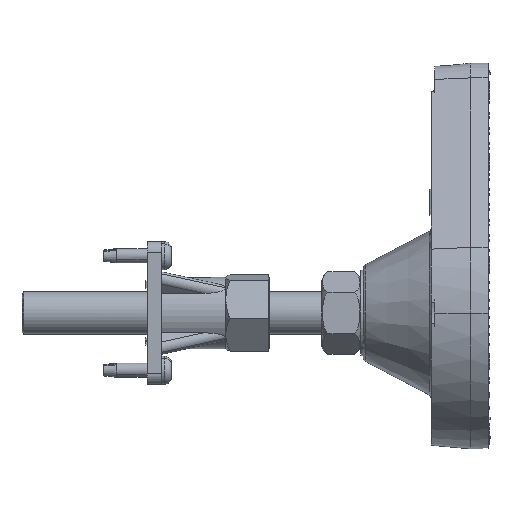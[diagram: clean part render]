
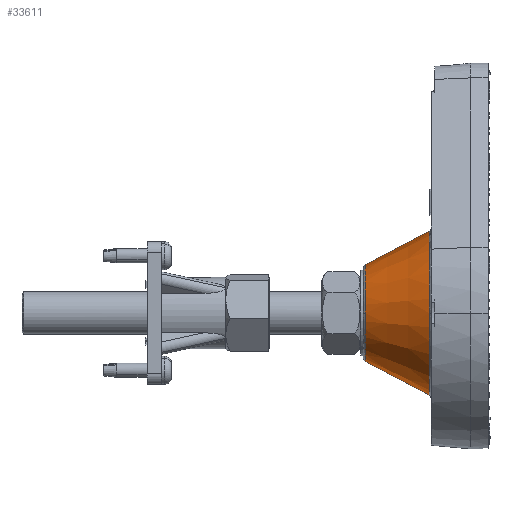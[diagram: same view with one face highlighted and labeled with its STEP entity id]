
A CAD part, left-side view. The second image highlights one B-rep face of the part: STEP entity #33611.
In plain terms, the highlighted conical face has half-angle 27.748 degrees and reference radius 36.472 mm.
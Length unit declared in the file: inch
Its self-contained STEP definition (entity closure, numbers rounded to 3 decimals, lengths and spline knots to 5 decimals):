
#62 = DIRECTION ( 'NONE',  ( -1., 0., 0. ) ) ;
#1290 = VECTOR ( 'NONE', #51004, 39.37008 ) ;
#1426 = ORIENTED_EDGE ( 'NONE', *, *, #1627, .T. ) ;
#1627 = EDGE_CURVE ( 'NONE', #32093, #11124, #52306, .T. ) ;
#1650 = DIRECTION ( 'NONE',  ( -1., 0., 0. ) ) ;
#2629 = VERTEX_POINT ( 'NONE', #35408 ) ;
#3723 = ORIENTED_EDGE ( 'NONE', *, *, #18787, .T. ) ;
#5285 = VERTEX_POINT ( 'NONE', #25611 ) ;
#6985 = CARTESIAN_POINT ( 'NONE',  ( 0., 0., 2.15411 ) ) ;
#10229 = FACE_OUTER_BOUND ( 'NONE', #47674, .T. ) ;
#10425 = VECTOR ( 'NONE', #33560, 39.37008 ) ;
#11124 = VERTEX_POINT ( 'NONE', #37483 ) ;
#11664 = DIRECTION ( 'NONE',  ( 0., 0., -1. ) ) ;
#11819 = DIRECTION ( 'NONE',  ( -1., 0., 0. ) ) ;
#15416 = ORIENTED_EDGE ( 'NONE', *, *, #28565, .F. ) ;
#16895 = CARTESIAN_POINT ( 'NONE',  ( 1.43593, 0., 1.03289 ) ) ;
#17041 = CIRCLE ( 'NONE', #46135, 0.84607 ) ;
#18787 = EDGE_CURVE ( 'NONE', #2629, #5285, #36886, .T. ) ;
#20037 = ORIENTED_EDGE ( 'NONE', *, *, #43774, .F. ) ;
#20520 = AXIS2_PLACEMENT_3D ( 'NONE', #20909, #25756, #21112 ) ;
#20909 = CARTESIAN_POINT ( 'NONE',  ( 0., 0., 1.03289 ) ) ;
#21112 = DIRECTION ( 'NONE',  ( 0., 1., 0. ) ) ;
#21684 = ORIENTED_EDGE ( 'NONE', *, *, #47715, .T. ) ;
#25611 = CARTESIAN_POINT ( 'NONE',  ( 0.84607, 0., 2.15411 ) ) ;
#25756 = DIRECTION ( 'NONE',  ( 0., 0., -1. ) ) ;
#27143 = CARTESIAN_POINT ( 'NONE',  ( 0., -1.43593, 1.03289 ) ) ;
#28565 = EDGE_CURVE ( 'NONE', #61287, #11124, #39889, .T. ) ;
#28697 = CARTESIAN_POINT ( 'NONE',  ( 0., 1.43593, 1.03289 ) ) ;
#28790 = DIRECTION ( 'NONE',  ( 0., 0., -1. ) ) ;
#30429 = DIRECTION ( 'NONE',  ( 0., 0., -1. ) ) ;
#32093 = VERTEX_POINT ( 'NONE', #49178 ) ;
#33560 = DIRECTION ( 'NONE',  ( 0., 0.466, -0.885 ) ) ;
#33611 = ADVANCED_FACE ( 'NONE', ( #10229 ), #53722, .T. ) ;
#35408 = CARTESIAN_POINT ( 'NONE',  ( 0., 0.84607, 2.15411 ) ) ;
#36886 = CIRCLE ( 'NONE', #45406, 0.84607 ) ;
#37483 = CARTESIAN_POINT ( 'NONE',  ( 0., -1.43593, 1.03289 ) ) ;
#39889 = CIRCLE ( 'NONE', #46727, 1.43593 ) ;
#40482 = CARTESIAN_POINT ( 'NONE',  ( 0., 0., 1.03289 ) ) ;
#40623 = DIRECTION ( 'NONE',  ( 0., 0., -1. ) ) ;
#42509 = VERTEX_POINT ( 'NONE', #44867 ) ;
#43554 = EDGE_CURVE ( 'NONE', #42509, #61287, #57728, .T. ) ;
#43774 = EDGE_CURVE ( 'NONE', #2629, #42509, #48675, .T. ) ;
#44867 = CARTESIAN_POINT ( 'NONE',  ( 0., 1.43593, 1.03289 ) ) ;
#45257 = DIRECTION ( 'NONE',  ( -1., 0., 0. ) ) ;
#45406 = AXIS2_PLACEMENT_3D ( 'NONE', #6985, #40623, #11819 ) ;
#46135 = AXIS2_PLACEMENT_3D ( 'NONE', #57479, #28790, #62 ) ;
#46727 = AXIS2_PLACEMENT_3D ( 'NONE', #40482, #11664, #45257 ) ;
#47674 = EDGE_LOOP ( 'NONE', ( #3723, #21684, #1426, #15416, #53542, #20037 ) ) ;
#47715 = EDGE_CURVE ( 'NONE', #5285, #32093, #17041, .T. ) ;
#48675 = LINE ( 'NONE', #28697, #10425 ) ;
#49178 = CARTESIAN_POINT ( 'NONE',  ( 0., -0.84607, 2.15411 ) ) ;
#51004 = DIRECTION ( 'NONE',  ( 0., -0.466, -0.885 ) ) ;
#52306 = LINE ( 'NONE', #27143, #1290 ) ;
#53542 = ORIENTED_EDGE ( 'NONE', *, *, #43554, .F. ) ;
#53722 = CONICAL_SURFACE ( 'NONE', #20520, 1.43593, 0.484 ) ;
#56663 = AXIS2_PLACEMENT_3D ( 'NONE', #59098, #30429, #1650 ) ;
#57479 = CARTESIAN_POINT ( 'NONE',  ( 0., 0., 2.15411 ) ) ;
#57728 = CIRCLE ( 'NONE', #56663, 1.43593 ) ;
#59098 = CARTESIAN_POINT ( 'NONE',  ( 0., 0., 1.03289 ) ) ;
#61287 = VERTEX_POINT ( 'NONE', #16895 ) ;
